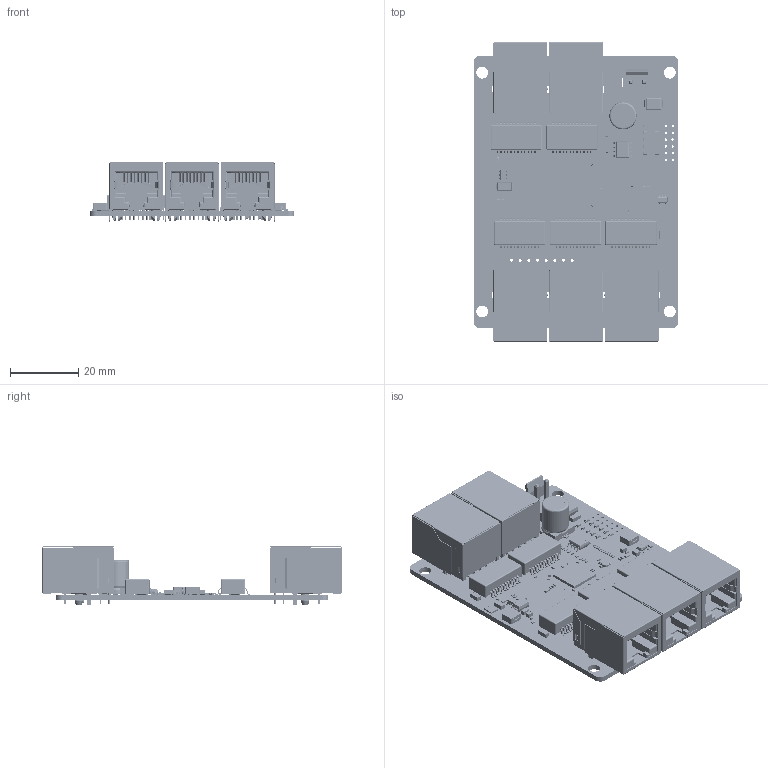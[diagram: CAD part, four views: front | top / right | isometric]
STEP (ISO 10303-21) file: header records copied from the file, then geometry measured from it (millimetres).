
FILE_DESCRIPTION(('Designed by EasyEDA Pro'),'2;1');
FILE_NAME('Open CASCADE Shape Model','2025-07-03T22:11:33',('Author'),( 'Open CASCADE'),'Open CASCADE STEP processor 7.8','Open CASCADE 7.8' ,'Unknown');
FILE_SCHEMA(('AUTOMOTIVE_DESIGN { 1 0 10303 214 1 1 1 1 }'));
Length unit declared in the file: millimetre
Products named in the file (49): EasyEDA PCB Model~C0nW; Board~C0nW; TopCopper~C0nW; BottomCopper~C0nW; TopFpcStiffener~C0nW; BottomFpcStiffener~C0nW; C32~1206~C1206_L3.2-W1.6-H1.3~C0nW; 1206~C1206_L3.2-W1.6-H1.3~C0nW; U8~SOT-23-6P~SOT-23-6_L2.9-W1.6-P0.95-LS2.8-BL-1~C0nW; SOT-23-6P~SOT-23-6_L2.9-W1.6-P0.95-LS2.8-BL-1~C0nW; R1~R0402_LY~R0402_L1.0-W0.5-H0.4~C0nW; R0402_LY~R0402_L1.0-W0.5-H0.4~C0nW; R11~R0603_LY~R0603_L1.6-W0.8-H0.5~C0nW; R0603_LY~R0603_L1.6-W0.8-H0.5~C0nW; R24~1210~R1210_L3.2-W2.6-H0.6~C0nW; 1210~R1210_L3.2-W2.6-H0.6~C0nW; D19~SMB-PN-210107~SMB_L4.6-W3.5-LS5.3-BI~C0nW; SMB-PN-210107~SMB_L4.6-W3.5-LS5.3-BI~C0nW; D21~SMA-S-2204~SMA_L4.3-W2.6-LS5.0-FD~C0nW; SMA-S-2204~SMA_L4.3-W2.6-LS5.0-FD~C0nW; C10~C0402_LY~C0402~C0nW; C0402_LY~C0402~C0nW; C29~0805-1907~C0805_L2.0-W1.3-H1.3~C0nW; 0805-1907~C0805_L2.0-W1.3-H1.3~C0nW; Y~Y-3225-210511~CRYSTAL-SMD_4P-L3.2-W2.5-BL~C0nW; Y-3225-210511~CRYSTAL-SMD_4P-L3.2-W2.5-BL~C0nW; JP~J2-3.96MM~CONN-TH_2P-P3.96_C9900035759~C0nW; J2-3.96MM~CONN-TH_2P-P3.96_C9900035759~C0nW; C17~C0603~C0603~C0nW; C0603~C0603~C0nW; PL1~LED-A~LED0603-RD_RED~C0nW; LED-A~LED0603-RD_RED~C0nW; L1~L0502~IND-SMD_L4.2-W4.4-H2.0~C0nW; L0502~IND-SMD_L4.2-W4.4-H2.0~C0nW; L~L0502~IND-SMD_L4.2-W4.4-H2.0~C0nW; T1~RJ45_LED_LS_HHH~5901D~C0nW; RJ45_LED_LS_HHH~5901D~C0nW; MA0~NS892407B~SMD-24_L15.1-W7.1-H4.5-P1.00-LS10.0-BL~C0nW; NS892407B~SMD-24_L15.1-W7.1-H4.5-P1.00-LS10.0-BL~C0nW; U2~STI3408~SOT-23-5_L2.9-W1.6-H1.1-LS2.8-P0.95~C0nW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
Assembly tree (130 placements, depth 3):
  EasyEDA PCB Model~C0nW
    Board~C0nW
    TopCopper~C0nW
    BottomCopper~C0nW
    TopFpcStiffener~C0nW
    BottomFpcStiffener~C0nW
    C32~1206~C1206_L3.2-W1.6-H1.3~C0nW  x6
      1206~C1206_L3.2-W1.6-H1.3~C0nW
    U8~SOT-23-6P~SOT-23-6_L2.9-W1.6-P0.95-LS2.8-BL-1~C0nW
      SOT-23-6P~SOT-23-6_L2.9-W1.6-P0.95-LS2.8-BL-1~C0nW
    R1~R0402_LY~R0402_L1.0-W0.5-H0.4~C0nW  x23
      R0402_LY~R0402_L1.0-W0.5-H0.4~C0nW
    R11~R0603_LY~R0603_L1.6-W0.8-H0.5~C0nW  x5
      R0603_LY~R0603_L1.6-W0.8-H0.5~C0nW
    R24~1210~R1210_L3.2-W2.6-H0.6~C0nW
      1210~R1210_L3.2-W2.6-H0.6~C0nW
    D19~SMB-PN-210107~SMB_L4.6-W3.5-LS5.3-BI~C0nW
      SMB-PN-210107~SMB_L4.6-W3.5-LS5.3-BI~C0nW
    D21~SMA-S-2204~SMA_L4.3-W2.6-LS5.0-FD~C0nW
      SMA-S-2204~SMA_L4.3-W2.6-LS5.0-FD~C0nW
    C10~C0402_LY~C0402~C0nW  x31
      C0402_LY~C0402~C0nW
    C29~0805-1907~C0805_L2.0-W1.3-H1.3~C0nW  x4
      0805-1907~C0805_L2.0-W1.3-H1.3~C0nW
    Y~Y-3225-210511~CRYSTAL-SMD_4P-L3.2-W2.5-BL~C0nW
      Y-3225-210511~CRYSTAL-SMD_4P-L3.2-W2.5-BL~C0nW
    JP~J2-3.96MM~CONN-TH_2P-P3.96_C9900035759~C0nW
      J2-3.96MM~CONN-TH_2P-P3.96_C9900035759~C0nW
    C17~C0603~C0603~C0nW
      C0603~C0603~C0nW
    PL1~LED-A~LED0603-RD_RED~C0nW  x11
      LED-A~LED0603-RD_RED~C0nW
    L1~L0502~IND-SMD_L4.2-W4.4-H2.0~C0nW
      L0502~IND-SMD_L4.2-W4.4-H2.0~C0nW
    L~L0502~IND-SMD_L4.2-W4.4-H2.0~C0nW
      L0502~IND-SMD_L4.2-W4.4-H2.0~C0nW
    T1~RJ45_LED_LS_HHH~5901D~C0nW  x5
      RJ45_LED_LS_HHH~5901D~C0nW
      RJ45_LED_LS_HHH~5901D~C0nW
    MA0~NS892407B~SMD-24_L15.1-W7.1-H4.5-P1.00-LS10.0-BL~C0nW  x5
      NS892407B~SMD-24_L15.1-W7.1-H4.5-P1.00-LS10.0-BL~C0nW
    U2~STI3408~SOT-23-5_L2.9-W1.6-H1.1-LS2.8-P0.95~C0nW
      STI3408~SOT-23-5_L2.9-W1.6-H1.1-LS2.8-P0.95~C0nW
    U1~QFN76~QFN-76_L9.0-W9.0-P0.40-TL-EP6.4~C0nW
      QFN76~QFN-76_L9.0-W9.0-P0.40-TL-EP6.4~C0nW
    U4~SOP8-201809~SOIC-8_L4.9-W3.9-H1.7-LS6.0-P1.27~C0nW
      SOP8-201809~SOIC-8_L4.9-W3.9-H1.7-LS6.0-P1.27~C0nW
    C13~E100B-25AA~CAP-SMD_BD8.0-L8.3-W8.3-FD~C0nW
      E100B-25AA~CAP-SMD_BD8.0-L8.3-W8.3-FD~C0nW
Bounding box: 59.97 x 87.7 x 17.3 mm (x, y, z)
Volume: 23514.7 mm3; surface area: 47984.9 mm2
Topology: 310 solids, 310 shells, 39319 faces, 107233 edges, 70299 vertices
Faces by surface type: plane 23751, bspline 10371, cylinder 4363, sphere 602, torus 166, cone 66
Full cylindrical faces by diameter (mm): 0.46 x40
Entity records: 379155 total; most frequent: CARTESIAN_POINT 97408, ORIENTED_EDGE 48418, DIRECTION 35558, EDGE_CURVE 24209, LINE 16428, VECTOR 16428, VERTEX_POINT 15846, FACE_BOUND 9693
